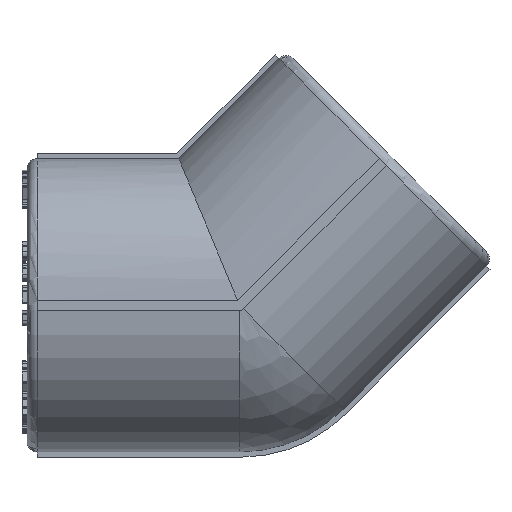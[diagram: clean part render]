
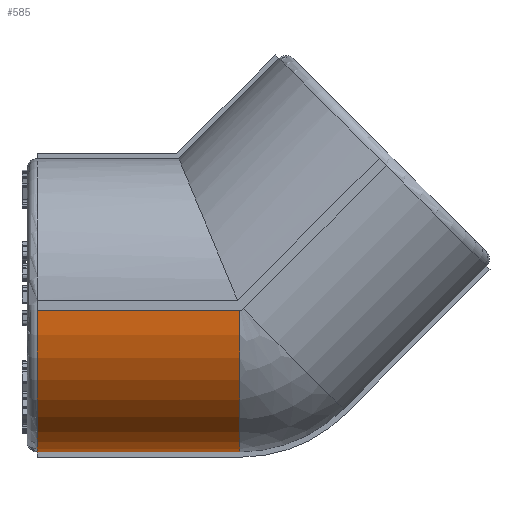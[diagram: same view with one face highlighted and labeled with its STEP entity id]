
A CAD part, left-side view. The second image highlights one B-rep face of the part: STEP entity #585.
In plain terms, the highlighted cylindrical face has radius 14.5 mm (diameter 29 mm), a partial arc.
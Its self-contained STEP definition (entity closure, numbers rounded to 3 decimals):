
#585=ADVANCED_FACE('',(#4099),#4101,.T.);
#4099=FACE_BOUND('',#4100,.T.);
#4100=EDGE_LOOP('',(#8361,#8362,#8363,#8364));
#4101=CYLINDRICAL_SURFACE('',#4102,14.5);
#4102=AXIS2_PLACEMENT_3D('',#4103,#4104,#4105);
#4103=CARTESIAN_POINT('',(0.,0.,0.));
#4104=DIRECTION('',(0.,1.,0.));
#4105=DIRECTION('',(-1.,0.,0.));
#8361=ORIENTED_EDGE('',*,*,#10053,.F.);
#8362=ORIENTED_EDGE('',*,*,#10054,.F.);
#8363=ORIENTED_EDGE('',*,*,#10055,.F.);
#8364=ORIENTED_EDGE('',*,*,#10030,.F.);
#10030=EDGE_CURVE('',#12611,#12613,#12614,.T.);
#10053=EDGE_CURVE('',#12652,#12611,#12653,.T.);
#10054=EDGE_CURVE('',#12654,#12652,#12655,.F.);
#10055=EDGE_CURVE('',#12613,#12654,#12656,.F.);
#12611=VERTEX_POINT('',#18231);
#12613=VERTEX_POINT('',#18236);
#12614=CIRCLE('',#18237,14.5);
#12652=VERTEX_POINT('',#18330);
#12653=LINE('',#18331,#18332);
#12654=VERTEX_POINT('',#18334);
#12655=CIRCLE('',#18335,14.5);
#12656=LINE('',#18339,#18340);
#18231=CARTESIAN_POINT('',(-0.5,20.,-14.491));
#18236=CARTESIAN_POINT('',(-14.491,20.,-0.5));
#18237=AXIS2_PLACEMENT_3D('',#18238,#18239,#18240);
#18238=CARTESIAN_POINT('',(0.,20.,0.));
#18239=DIRECTION('',(0.,1.,0.));
#18240=DIRECTION('',(-0.034,0.,-0.999));
#18330=CARTESIAN_POINT('',(-0.5,0.,-14.491));
#18331=CARTESIAN_POINT('',(-0.5,0.,-14.491));
#18332=VECTOR('',#18333,1.);
#18333=DIRECTION('',(0.,1.,0.));
#18334=CARTESIAN_POINT('',(-14.491,0.,-0.5));
#18335=AXIS2_PLACEMENT_3D('',#18336,#18337,#18338);
#18336=CARTESIAN_POINT('',(0.,0.,0.));
#18337=DIRECTION('',(0.,1.,0.));
#18338=DIRECTION('',(-0.034,0.,-0.999));
#18339=CARTESIAN_POINT('',(-14.491,0.,-0.5));
#18340=VECTOR('',#18341,1.);
#18341=DIRECTION('',(0.,1.,0.));
